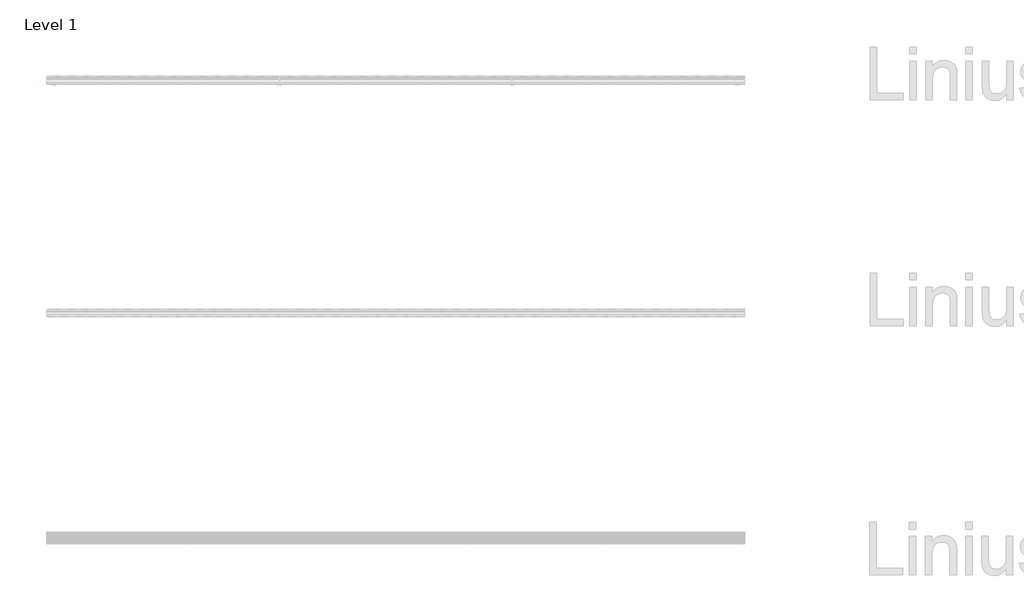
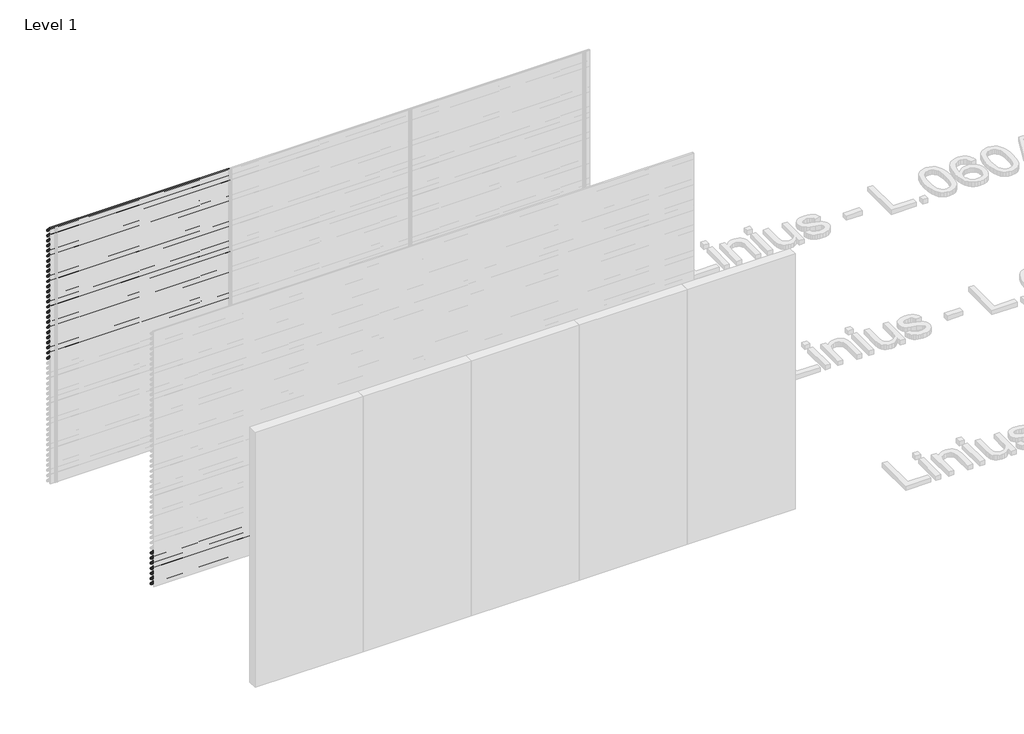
# One storey, part 143 of 153: 33 proxies.
"""IFC4 building model written with IfcOpenShell, lengths in millimetres."""

from ifc_helpers import new_model, si_unit, point, frame, frame_2d, origin, place, context, project, spatial, polyline, circle_curve, trimmed, segment, composite_curve, outline, extrude, element, save

model = new_model("IFC4")

# Units and contexts
model_context = context("Model", 3, world=origin())
ifc_project = project(units=[si_unit("LENGTHUNIT", "METRE", prefix="MILLI")], contexts=[model_context])

# Site, building, storey
site = spatial("IfcSite", under=ifc_project)
building = spatial("IfcBuilding", under=site)
storey = spatial("IfcBuildingStorey", under=building, Name="Level 1", Elevation=0.0)

# Proxies
placement = place(None, origin())
element("IfcBuildingElementProxy", 1, Name="Wall Sweeps", at=placement, inside=storey, context=model_context, shape_type="SweptSolid", body=[
    extrude(outline(composite_curve([segment(polyline([(73985.0540136, 3000.0), (73999.874191, 2998.7034025), (74049.0540136, 2945.0102749), (74049.0540136, 2933.6108187)]), True, "CONTINUOUS"), segment(trimmed(circle_curve(frame_2d((74045.7883652, 2933.897153)), 3.2781774), [point((74049.0540136, 2933.6108187))], [point((74046.4639442, 2930.6893438))], False, "CARTESIAN"), True, "CONTINUOUS"), segment(polyline([(74046.4639442, 2930.6893438), (74034.1895723, 2931.6282758), (73985.0540136, 2985.2730773), (73985.0540136, 3000.0)]), True, "CONTINUOUS")], self_intersect=False), holes=[composite_curve([segment(polyline([(73999.1621773, 2997.2599659), (73986.5540136, 2998.3630372), (73986.5540136, 2985.856213), (74034.8952036, 2933.0786805), (74046.3312542, 2932.2038762)]), True, "CONTINUOUS"), segment(trimmed(circle_curve(frame_2d((74045.7883652, 2933.897153)), 1.7781774), [point((74046.3312542, 2932.2038762))], [point((74047.5540136, 2933.6864389))], True, "CARTESIAN"), True, "CONTINUOUS"), segment(polyline([(74047.5540136, 2933.6864389), (74047.5540136, 2944.4271392), (73999.1621773, 2997.2599659)]), True, "CONTINUOUS")], self_intersect=False)]), frame((44966.6208097, 0.0, 0.0), z_axis=(1.0, 0.0, 0.0), x_axis=(0.0, 1.0, 0.0)), (0.0, 0.0, 1.0), 2000.0000001),
])
element("IfcBuildingElementProxy", 2, Name="Wall Sweeps", at=placement, inside=storey, context=model_context, shape_type="SweptSolid", body=[
    extrude(outline(composite_curve([segment(polyline([(73985.0540136, 2940.0), (73999.874191, 2938.7034025), (74049.0540136, 2885.0102749), (74049.0540136, 2873.6108187)]), True, "CONTINUOUS"), segment(trimmed(circle_curve(frame_2d((74045.7883652, 2873.897153)), 3.2781774), [point((74049.0540136, 2873.6108187))], [point((74046.4639442, 2870.6893438))], False, "CARTESIAN"), True, "CONTINUOUS"), segment(polyline([(74046.4639442, 2870.6893438), (74034.1895723, 2871.6282758), (73985.0540136, 2925.2730773), (73985.0540136, 2940.0)]), True, "CONTINUOUS")], self_intersect=False), holes=[composite_curve([segment(polyline([(73999.1621773, 2937.2599659), (73986.5540136, 2938.3630372), (73986.5540136, 2925.856213), (74034.8952036, 2873.0786805), (74046.3312542, 2872.2038762)]), True, "CONTINUOUS"), segment(trimmed(circle_curve(frame_2d((74045.7883652, 2873.897153)), 1.7781774), [point((74046.3312542, 2872.2038762))], [point((74047.5540136, 2873.6864389))], True, "CARTESIAN"), True, "CONTINUOUS"), segment(polyline([(74047.5540136, 2873.6864389), (74047.5540136, 2884.4271392), (73999.1621773, 2937.2599659)]), True, "CONTINUOUS")], self_intersect=False)]), frame((44966.6208097, 0.0, 0.0), z_axis=(1.0, 0.0, 0.0), x_axis=(0.0, 1.0, 0.0)), (0.0, 0.0, 1.0), 2000.0000001),
])
element("IfcBuildingElementProxy", 3, Name="Wall Sweeps", at=placement, inside=storey, context=model_context, shape_type="SweptSolid", body=[
    extrude(outline(composite_curve([segment(polyline([(73985.0540136, 2880.0), (73999.874191, 2878.7034025), (74049.0540136, 2825.0102749), (74049.0540136, 2813.6108187)]), True, "CONTINUOUS"), segment(trimmed(circle_curve(frame_2d((74045.7883652, 2813.897153)), 3.2781774), [point((74049.0540136, 2813.6108187))], [point((74046.4639442, 2810.6893438))], False, "CARTESIAN"), True, "CONTINUOUS"), segment(polyline([(74046.4639442, 2810.6893438), (74034.1895723, 2811.6282758), (73985.0540136, 2865.2730773), (73985.0540136, 2880.0)]), True, "CONTINUOUS")], self_intersect=False), holes=[composite_curve([segment(polyline([(73999.1621773, 2877.2599659), (73986.5540136, 2878.3630372), (73986.5540136, 2865.856213), (74034.8952036, 2813.0786805), (74046.3312542, 2812.2038762)]), True, "CONTINUOUS"), segment(trimmed(circle_curve(frame_2d((74045.7883652, 2813.897153)), 1.7781774), [point((74046.3312542, 2812.2038762))], [point((74047.5540136, 2813.6864389))], True, "CARTESIAN"), True, "CONTINUOUS"), segment(polyline([(74047.5540136, 2813.6864389), (74047.5540136, 2824.4271392), (73999.1621773, 2877.2599659)]), True, "CONTINUOUS")], self_intersect=False)]), frame((44966.6208097, 0.0, 0.0), z_axis=(1.0, 0.0, 0.0), x_axis=(0.0, 1.0, 0.0)), (0.0, 0.0, 1.0), 2000.0000001),
])
element("IfcBuildingElementProxy", 4, Name="Wall Sweeps", at=placement, inside=storey, context=model_context, shape_type="SweptSolid", body=[
    extrude(outline(composite_curve([segment(polyline([(73985.0540136, 2820.0), (73999.874191, 2818.7034025), (74049.0540136, 2765.0102749), (74049.0540136, 2753.6108187)]), True, "CONTINUOUS"), segment(trimmed(circle_curve(frame_2d((74045.7883652, 2753.897153)), 3.2781774), [point((74049.0540136, 2753.6108187))], [point((74046.4639442, 2750.6893438))], False, "CARTESIAN"), True, "CONTINUOUS"), segment(polyline([(74046.4639442, 2750.6893438), (74034.1895723, 2751.6282758), (73985.0540136, 2805.2730773), (73985.0540136, 2820.0)]), True, "CONTINUOUS")], self_intersect=False), holes=[composite_curve([segment(polyline([(73999.1621773, 2817.2599659), (73986.5540136, 2818.3630372), (73986.5540136, 2805.856213), (74034.8952036, 2753.0786805), (74046.3312542, 2752.2038762)]), True, "CONTINUOUS"), segment(trimmed(circle_curve(frame_2d((74045.7883652, 2753.897153)), 1.7781774), [point((74046.3312542, 2752.2038762))], [point((74047.5540136, 2753.6864389))], True, "CARTESIAN"), True, "CONTINUOUS"), segment(polyline([(74047.5540136, 2753.6864389), (74047.5540136, 2764.4271392), (73999.1621773, 2817.2599659)]), True, "CONTINUOUS")], self_intersect=False)]), frame((44966.6208097, 0.0, 0.0), z_axis=(1.0, 0.0, 0.0), x_axis=(0.0, 1.0, 0.0)), (0.0, 0.0, 1.0), 2000.0000001),
])
element("IfcBuildingElementProxy", 5, Name="Wall Sweeps", at=placement, inside=storey, context=model_context, shape_type="SweptSolid", body=[
    extrude(outline(composite_curve([segment(polyline([(73985.0540136, 2760.0), (73999.874191, 2758.7034025), (74049.0540136, 2705.0102749), (74049.0540136, 2693.6108187)]), True, "CONTINUOUS"), segment(trimmed(circle_curve(frame_2d((74045.7883652, 2693.897153)), 3.2781774), [point((74049.0540136, 2693.6108187))], [point((74046.4639442, 2690.6893438))], False, "CARTESIAN"), True, "CONTINUOUS"), segment(polyline([(74046.4639442, 2690.6893438), (74034.1895723, 2691.6282758), (73985.0540136, 2745.2730773), (73985.0540136, 2760.0)]), True, "CONTINUOUS")], self_intersect=False), holes=[composite_curve([segment(polyline([(73999.1621773, 2757.2599659), (73986.5540136, 2758.3630372), (73986.5540136, 2745.856213), (74034.8952036, 2693.0786805), (74046.3312542, 2692.2038762)]), True, "CONTINUOUS"), segment(trimmed(circle_curve(frame_2d((74045.7883652, 2693.897153)), 1.7781774), [point((74046.3312542, 2692.2038762))], [point((74047.5540136, 2693.6864389))], True, "CARTESIAN"), True, "CONTINUOUS"), segment(polyline([(74047.5540136, 2693.6864389), (74047.5540136, 2704.4271392), (73999.1621773, 2757.2599659)]), True, "CONTINUOUS")], self_intersect=False)]), frame((44966.6208097, 0.0, 0.0), z_axis=(1.0, 0.0, 0.0), x_axis=(0.0, 1.0, 0.0)), (0.0, 0.0, 1.0), 2000.0000001),
])
element("IfcBuildingElementProxy", 6, Name="Wall Sweeps", at=placement, inside=storey, context=model_context, shape_type="SweptSolid", body=[
    extrude(outline(composite_curve([segment(polyline([(73985.0540136, 2700.0), (73999.874191, 2698.7034025), (74049.0540136, 2645.0102749), (74049.0540136, 2633.6108187)]), True, "CONTINUOUS"), segment(trimmed(circle_curve(frame_2d((74045.7883652, 2633.897153)), 3.2781774), [point((74049.0540136, 2633.6108187))], [point((74046.4639442, 2630.6893438))], False, "CARTESIAN"), True, "CONTINUOUS"), segment(polyline([(74046.4639442, 2630.6893438), (74034.1895723, 2631.6282758), (73985.0540136, 2685.2730773), (73985.0540136, 2700.0)]), True, "CONTINUOUS")], self_intersect=False), holes=[composite_curve([segment(polyline([(73999.1621773, 2697.2599659), (73986.5540136, 2698.3630372), (73986.5540136, 2685.856213), (74034.8952036, 2633.0786805), (74046.3312542, 2632.2038762)]), True, "CONTINUOUS"), segment(trimmed(circle_curve(frame_2d((74045.7883652, 2633.897153)), 1.7781774), [point((74046.3312542, 2632.2038762))], [point((74047.5540136, 2633.6864389))], True, "CARTESIAN"), True, "CONTINUOUS"), segment(polyline([(74047.5540136, 2633.6864389), (74047.5540136, 2644.4271392), (73999.1621773, 2697.2599659)]), True, "CONTINUOUS")], self_intersect=False)]), frame((44966.6208097, 0.0, 0.0), z_axis=(1.0, 0.0, 0.0), x_axis=(0.0, 1.0, 0.0)), (0.0, 0.0, 1.0), 2000.0000001),
])
element("IfcBuildingElementProxy", 7, Name="Wall Sweeps", at=placement, inside=storey, context=model_context, shape_type="SweptSolid", body=[
    extrude(outline(composite_curve([segment(polyline([(73985.0540136, 2640.0), (73999.874191, 2638.7034025), (74049.0540136, 2585.0102749), (74049.0540136, 2573.6108187)]), True, "CONTINUOUS"), segment(trimmed(circle_curve(frame_2d((74045.7883652, 2573.897153)), 3.2781774), [point((74049.0540136, 2573.6108187))], [point((74046.4639442, 2570.6893438))], False, "CARTESIAN"), True, "CONTINUOUS"), segment(polyline([(74046.4639442, 2570.6893438), (74034.1895723, 2571.6282758), (73985.0540136, 2625.2730773), (73985.0540136, 2640.0)]), True, "CONTINUOUS")], self_intersect=False), holes=[composite_curve([segment(polyline([(73999.1621773, 2637.2599659), (73986.5540136, 2638.3630372), (73986.5540136, 2625.856213), (74034.8952036, 2573.0786805), (74046.3312542, 2572.2038762)]), True, "CONTINUOUS"), segment(trimmed(circle_curve(frame_2d((74045.7883652, 2573.897153)), 1.7781774), [point((74046.3312542, 2572.2038762))], [point((74047.5540136, 2573.6864389))], True, "CARTESIAN"), True, "CONTINUOUS"), segment(polyline([(74047.5540136, 2573.6864389), (74047.5540136, 2584.4271392), (73999.1621773, 2637.2599659)]), True, "CONTINUOUS")], self_intersect=False)]), frame((44966.6208097, 0.0, 0.0), z_axis=(1.0, 0.0, 0.0), x_axis=(0.0, 1.0, 0.0)), (0.0, 0.0, 1.0), 2000.0000001),
])
element("IfcBuildingElementProxy", 8, Name="Wall Sweeps", at=placement, inside=storey, context=model_context, shape_type="SweptSolid", body=[
    extrude(outline(composite_curve([segment(polyline([(73985.0540136, 2580.0), (73999.874191, 2578.7034025), (74049.0540136, 2525.0102749), (74049.0540136, 2513.6108187)]), True, "CONTINUOUS"), segment(trimmed(circle_curve(frame_2d((74045.7883652, 2513.897153)), 3.2781774), [point((74049.0540136, 2513.6108187))], [point((74046.4639442, 2510.6893438))], False, "CARTESIAN"), True, "CONTINUOUS"), segment(polyline([(74046.4639442, 2510.6893438), (74034.1895723, 2511.6282758), (73985.0540136, 2565.2730773), (73985.0540136, 2580.0)]), True, "CONTINUOUS")], self_intersect=False), holes=[composite_curve([segment(polyline([(73999.1621773, 2577.2599659), (73986.5540136, 2578.3630372), (73986.5540136, 2565.856213), (74034.8952036, 2513.0786805), (74046.3312542, 2512.2038762)]), True, "CONTINUOUS"), segment(trimmed(circle_curve(frame_2d((74045.7883652, 2513.897153)), 1.7781774), [point((74046.3312542, 2512.2038762))], [point((74047.5540136, 2513.6864389))], True, "CARTESIAN"), True, "CONTINUOUS"), segment(polyline([(74047.5540136, 2513.6864389), (74047.5540136, 2524.4271392), (73999.1621773, 2577.2599659)]), True, "CONTINUOUS")], self_intersect=False)]), frame((44966.6208097, 0.0, 0.0), z_axis=(1.0, 0.0, 0.0), x_axis=(0.0, 1.0, 0.0)), (0.0, 0.0, 1.0), 2000.0000001),
])
element("IfcBuildingElementProxy", 9, Name="Wall Sweeps", at=placement, inside=storey, context=model_context, shape_type="SweptSolid", body=[
    extrude(outline(composite_curve([segment(polyline([(73985.0540136, 2520.0), (73999.874191, 2518.7034025), (74049.0540136, 2465.0102749), (74049.0540136, 2453.6108187)]), True, "CONTINUOUS"), segment(trimmed(circle_curve(frame_2d((74045.7883652, 2453.897153)), 3.2781774), [point((74049.0540136, 2453.6108187))], [point((74046.4639442, 2450.6893438))], False, "CARTESIAN"), True, "CONTINUOUS"), segment(polyline([(74046.4639442, 2450.6893438), (74034.1895723, 2451.6282758), (73985.0540136, 2505.2730773), (73985.0540136, 2520.0)]), True, "CONTINUOUS")], self_intersect=False), holes=[composite_curve([segment(polyline([(73999.1621773, 2517.2599659), (73986.5540136, 2518.3630372), (73986.5540136, 2505.856213), (74034.8952036, 2453.0786805), (74046.3312542, 2452.2038762)]), True, "CONTINUOUS"), segment(trimmed(circle_curve(frame_2d((74045.7883652, 2453.897153)), 1.7781774), [point((74046.3312542, 2452.2038762))], [point((74047.5540136, 2453.6864389))], True, "CARTESIAN"), True, "CONTINUOUS"), segment(polyline([(74047.5540136, 2453.6864389), (74047.5540136, 2464.4271392), (73999.1621773, 2517.2599659)]), True, "CONTINUOUS")], self_intersect=False)]), frame((44966.6208097, 0.0, 0.0), z_axis=(1.0, 0.0, 0.0), x_axis=(0.0, 1.0, 0.0)), (0.0, 0.0, 1.0), 2000.0000001),
])
element("IfcBuildingElementProxy", 10, Name="Wall Sweeps", at=placement, inside=storey, context=model_context, shape_type="SweptSolid", body=[
    extrude(outline(composite_curve([segment(polyline([(73985.0540136, 2460.0), (73999.874191, 2458.7034025), (74049.0540136, 2405.0102749), (74049.0540136, 2393.6108187)]), True, "CONTINUOUS"), segment(trimmed(circle_curve(frame_2d((74045.7883652, 2393.897153)), 3.2781774), [point((74049.0540136, 2393.6108187))], [point((74046.4639442, 2390.6893438))], False, "CARTESIAN"), True, "CONTINUOUS"), segment(polyline([(74046.4639442, 2390.6893438), (74034.1895723, 2391.6282758), (73985.0540136, 2445.2730773), (73985.0540136, 2460.0)]), True, "CONTINUOUS")], self_intersect=False), holes=[composite_curve([segment(polyline([(73999.1621773, 2457.2599659), (73986.5540136, 2458.3630372), (73986.5540136, 2445.856213), (74034.8952036, 2393.0786805), (74046.3312542, 2392.2038762)]), True, "CONTINUOUS"), segment(trimmed(circle_curve(frame_2d((74045.7883652, 2393.897153)), 1.7781774), [point((74046.3312542, 2392.2038762))], [point((74047.5540136, 2393.6864389))], True, "CARTESIAN"), True, "CONTINUOUS"), segment(polyline([(74047.5540136, 2393.6864389), (74047.5540136, 2404.4271392), (73999.1621773, 2457.2599659)]), True, "CONTINUOUS")], self_intersect=False)]), frame((44966.6208097, 0.0, 0.0), z_axis=(1.0, 0.0, 0.0), x_axis=(0.0, 1.0, 0.0)), (0.0, 0.0, 1.0), 2000.0000001),
])
element("IfcBuildingElementProxy", 11, Name="Wall Sweeps", at=placement, inside=storey, context=model_context, shape_type="SweptSolid", body=[
    extrude(outline(composite_curve([segment(polyline([(73985.0540136, 2400.0), (73999.874191, 2398.7034025), (74049.0540136, 2345.0102749), (74049.0540136, 2333.6108187)]), True, "CONTINUOUS"), segment(trimmed(circle_curve(frame_2d((74045.7883652, 2333.897153)), 3.2781774), [point((74049.0540136, 2333.6108187))], [point((74046.4639442, 2330.6893438))], False, "CARTESIAN"), True, "CONTINUOUS"), segment(polyline([(74046.4639442, 2330.6893438), (74034.1895723, 2331.6282758), (73985.0540136, 2385.2730773), (73985.0540136, 2400.0)]), True, "CONTINUOUS")], self_intersect=False), holes=[composite_curve([segment(polyline([(73999.1621773, 2397.2599659), (73986.5540136, 2398.3630372), (73986.5540136, 2385.856213), (74034.8952036, 2333.0786805), (74046.3312542, 2332.2038762)]), True, "CONTINUOUS"), segment(trimmed(circle_curve(frame_2d((74045.7883652, 2333.897153)), 1.7781774), [point((74046.3312542, 2332.2038762))], [point((74047.5540136, 2333.6864389))], True, "CARTESIAN"), True, "CONTINUOUS"), segment(polyline([(74047.5540136, 2333.6864389), (74047.5540136, 2344.4271392), (73999.1621773, 2397.2599659)]), True, "CONTINUOUS")], self_intersect=False)]), frame((44966.6208097, 0.0, 0.0), z_axis=(1.0, 0.0, 0.0), x_axis=(0.0, 1.0, 0.0)), (0.0, 0.0, 1.0), 2000.0000001),
])
element("IfcBuildingElementProxy", 12, Name="Wall Sweeps", at=placement, inside=storey, context=model_context, shape_type="SweptSolid", body=[
    extrude(outline(composite_curve([segment(polyline([(73985.0540136, 2340.0), (73999.874191, 2338.7034025), (74049.0540136, 2285.0102749), (74049.0540136, 2273.6108187)]), True, "CONTINUOUS"), segment(trimmed(circle_curve(frame_2d((74045.7883652, 2273.897153)), 3.2781774), [point((74049.0540136, 2273.6108187))], [point((74046.4639442, 2270.6893438))], False, "CARTESIAN"), True, "CONTINUOUS"), segment(polyline([(74046.4639442, 2270.6893438), (74034.1895723, 2271.6282758), (73985.0540136, 2325.2730773), (73985.0540136, 2340.0)]), True, "CONTINUOUS")], self_intersect=False), holes=[composite_curve([segment(polyline([(73999.1621773, 2337.2599659), (73986.5540136, 2338.3630372), (73986.5540136, 2325.856213), (74034.8952036, 2273.0786805), (74046.3312542, 2272.2038762)]), True, "CONTINUOUS"), segment(trimmed(circle_curve(frame_2d((74045.7883652, 2273.897153)), 1.7781774), [point((74046.3312542, 2272.2038762))], [point((74047.5540136, 2273.6864389))], True, "CARTESIAN"), True, "CONTINUOUS"), segment(polyline([(74047.5540136, 2273.6864389), (74047.5540136, 2284.4271392), (73999.1621773, 2337.2599659)]), True, "CONTINUOUS")], self_intersect=False)]), frame((44966.6208097, 0.0, 0.0), z_axis=(1.0, 0.0, 0.0), x_axis=(0.0, 1.0, 0.0)), (0.0, 0.0, 1.0), 2000.0000001),
])
element("IfcBuildingElementProxy", 13, Name="Wall Sweeps", at=placement, inside=storey, context=model_context, shape_type="SweptSolid", body=[
    extrude(outline(composite_curve([segment(polyline([(73985.0540136, 2280.0), (73999.874191, 2278.7034025), (74049.0540136, 2225.0102749), (74049.0540136, 2213.6108187)]), True, "CONTINUOUS"), segment(trimmed(circle_curve(frame_2d((74045.7883652, 2213.897153)), 3.2781774), [point((74049.0540136, 2213.6108187))], [point((74046.4639442, 2210.6893438))], False, "CARTESIAN"), True, "CONTINUOUS"), segment(polyline([(74046.4639442, 2210.6893438), (74034.1895723, 2211.6282758), (73985.0540136, 2265.2730773), (73985.0540136, 2280.0)]), True, "CONTINUOUS")], self_intersect=False), holes=[composite_curve([segment(polyline([(73999.1621773, 2277.2599659), (73986.5540136, 2278.3630372), (73986.5540136, 2265.856213), (74034.8952036, 2213.0786805), (74046.3312542, 2212.2038762)]), True, "CONTINUOUS"), segment(trimmed(circle_curve(frame_2d((74045.7883652, 2213.897153)), 1.7781774), [point((74046.3312542, 2212.2038762))], [point((74047.5540136, 2213.6864389))], True, "CARTESIAN"), True, "CONTINUOUS"), segment(polyline([(74047.5540136, 2213.6864389), (74047.5540136, 2224.4271392), (73999.1621773, 2277.2599659)]), True, "CONTINUOUS")], self_intersect=False)]), frame((44966.6208097, 0.0, 0.0), z_axis=(1.0, 0.0, 0.0), x_axis=(0.0, 1.0, 0.0)), (0.0, 0.0, 1.0), 2000.0000001),
])
element("IfcBuildingElementProxy", 14, Name="Wall Sweeps", at=placement, inside=storey, context=model_context, shape_type="SweptSolid", body=[
    extrude(outline(composite_curve([segment(polyline([(73985.0540136, 2220.0), (73999.874191, 2218.7034025), (74049.0540136, 2165.0102749), (74049.0540136, 2153.6108187)]), True, "CONTINUOUS"), segment(trimmed(circle_curve(frame_2d((74045.7883652, 2153.897153)), 3.2781774), [point((74049.0540136, 2153.6108187))], [point((74046.4639442, 2150.6893438))], False, "CARTESIAN"), True, "CONTINUOUS"), segment(polyline([(74046.4639442, 2150.6893438), (74034.1895723, 2151.6282758), (73985.0540136, 2205.2730773), (73985.0540136, 2220.0)]), True, "CONTINUOUS")], self_intersect=False), holes=[composite_curve([segment(polyline([(73999.1621773, 2217.2599659), (73986.5540136, 2218.3630372), (73986.5540136, 2205.856213), (74034.8952036, 2153.0786805), (74046.3312542, 2152.2038762)]), True, "CONTINUOUS"), segment(trimmed(circle_curve(frame_2d((74045.7883652, 2153.897153)), 1.7781774), [point((74046.3312542, 2152.2038762))], [point((74047.5540136, 2153.6864389))], True, "CARTESIAN"), True, "CONTINUOUS"), segment(polyline([(74047.5540136, 2153.6864389), (74047.5540136, 2164.4271392), (73999.1621773, 2217.2599659)]), True, "CONTINUOUS")], self_intersect=False)]), frame((44966.6208097, 0.0, 0.0), z_axis=(1.0, 0.0, 0.0), x_axis=(0.0, 1.0, 0.0)), (0.0, 0.0, 1.0), 2000.0000001),
])
element("IfcBuildingElementProxy", 15, Name="Wall Sweeps", at=placement, inside=storey, context=model_context, shape_type="SweptSolid", body=[
    extrude(outline(composite_curve([segment(polyline([(73985.0540136, 2160.0), (73999.874191, 2158.7034025), (74049.0540136, 2105.0102749), (74049.0540136, 2093.6108187)]), True, "CONTINUOUS"), segment(trimmed(circle_curve(frame_2d((74045.7883652, 2093.897153)), 3.2781774), [point((74049.0540136, 2093.6108187))], [point((74046.4639442, 2090.6893438))], False, "CARTESIAN"), True, "CONTINUOUS"), segment(polyline([(74046.4639442, 2090.6893438), (74034.1895723, 2091.6282758), (73985.0540136, 2145.2730773), (73985.0540136, 2160.0)]), True, "CONTINUOUS")], self_intersect=False), holes=[composite_curve([segment(polyline([(73999.1621773, 2157.2599659), (73986.5540136, 2158.3630372), (73986.5540136, 2145.856213), (74034.8952036, 2093.0786805), (74046.3312542, 2092.2038762)]), True, "CONTINUOUS"), segment(trimmed(circle_curve(frame_2d((74045.7883652, 2093.897153)), 1.7781774), [point((74046.3312542, 2092.2038762))], [point((74047.5540136, 2093.6864389))], True, "CARTESIAN"), True, "CONTINUOUS"), segment(polyline([(74047.5540136, 2093.6864389), (74047.5540136, 2104.4271392), (73999.1621773, 2157.2599659)]), True, "CONTINUOUS")], self_intersect=False)]), frame((44966.6208097, 0.0, 0.0), z_axis=(1.0, 0.0, 0.0), x_axis=(0.0, 1.0, 0.0)), (0.0, 0.0, 1.0), 2000.0000001),
])
element("IfcBuildingElementProxy", 16, Name="Wall Sweeps", at=placement, inside=storey, context=model_context, shape_type="SweptSolid", body=[
    extrude(outline(composite_curve([segment(polyline([(73985.0540136, 2100.0), (73999.874191, 2098.7034025), (74049.0540136, 2045.0102749), (74049.0540136, 2033.6108187)]), True, "CONTINUOUS"), segment(trimmed(circle_curve(frame_2d((74045.7883652, 2033.897153)), 3.2781774), [point((74049.0540136, 2033.6108187))], [point((74046.4639442, 2030.6893438))], False, "CARTESIAN"), True, "CONTINUOUS"), segment(polyline([(74046.4639442, 2030.6893438), (74034.1895723, 2031.6282758), (73985.0540136, 2085.2730773), (73985.0540136, 2100.0)]), True, "CONTINUOUS")], self_intersect=False), holes=[composite_curve([segment(polyline([(73999.1621773, 2097.2599659), (73986.5540136, 2098.3630372), (73986.5540136, 2085.856213), (74034.8952036, 2033.0786805), (74046.3312542, 2032.2038762)]), True, "CONTINUOUS"), segment(trimmed(circle_curve(frame_2d((74045.7883652, 2033.897153)), 1.7781774), [point((74046.3312542, 2032.2038762))], [point((74047.5540136, 2033.6864389))], True, "CARTESIAN"), True, "CONTINUOUS"), segment(polyline([(74047.5540136, 2033.6864389), (74047.5540136, 2044.4271392), (73999.1621773, 2097.2599659)]), True, "CONTINUOUS")], self_intersect=False)]), frame((44966.6208097, 0.0, 0.0), z_axis=(1.0, 0.0, 0.0), x_axis=(0.0, 1.0, 0.0)), (0.0, 0.0, 1.0), 2000.0000001),
])
element("IfcBuildingElementProxy", 17, Name="Wall Sweeps", at=placement, inside=storey, context=model_context, shape_type="SweptSolid", body=[
    extrude(outline(composite_curve([segment(polyline([(73985.0540136, 2040.0), (73999.874191, 2038.7034025), (74049.0540136, 1985.0102749), (74049.0540136, 1973.6108187)]), True, "CONTINUOUS"), segment(trimmed(circle_curve(frame_2d((74045.7883652, 1973.897153)), 3.2781774), [point((74049.0540136, 1973.6108187))], [point((74046.4639442, 1970.6893438))], False, "CARTESIAN"), True, "CONTINUOUS"), segment(polyline([(74046.4639442, 1970.6893438), (74034.1895723, 1971.6282758), (73985.0540136, 2025.2730773), (73985.0540136, 2040.0)]), True, "CONTINUOUS")], self_intersect=False), holes=[composite_curve([segment(polyline([(73999.1621773, 2037.2599659), (73986.5540136, 2038.3630372), (73986.5540136, 2025.856213), (74034.8952036, 1973.0786805), (74046.3312542, 1972.2038762)]), True, "CONTINUOUS"), segment(trimmed(circle_curve(frame_2d((74045.7883652, 1973.897153)), 1.7781774), [point((74046.3312542, 1972.2038762))], [point((74047.5540136, 1973.6864389))], True, "CARTESIAN"), True, "CONTINUOUS"), segment(polyline([(74047.5540136, 1973.6864389), (74047.5540136, 1984.4271392), (73999.1621773, 2037.2599659)]), True, "CONTINUOUS")], self_intersect=False)]), frame((44966.6208097, 0.0, 0.0), z_axis=(1.0, 0.0, 0.0), x_axis=(0.0, 1.0, 0.0)), (0.0, 0.0, 1.0), 2000.0000001),
])
element("IfcBuildingElementProxy", 18, Name="Wall Sweeps", at=placement, inside=storey, context=model_context, shape_type="SweptSolid", body=[
    extrude(outline(composite_curve([segment(polyline([(73985.0540136, 1980.0), (73999.874191, 1978.7034025), (74049.0540136, 1925.0102749), (74049.0540136, 1913.6108187)]), True, "CONTINUOUS"), segment(trimmed(circle_curve(frame_2d((74045.7883652, 1913.897153)), 3.2781774), [point((74049.0540136, 1913.6108187))], [point((74046.4639442, 1910.6893438))], False, "CARTESIAN"), True, "CONTINUOUS"), segment(polyline([(74046.4639442, 1910.6893438), (74034.1895723, 1911.6282758), (73985.0540136, 1965.2730773), (73985.0540136, 1980.0)]), True, "CONTINUOUS")], self_intersect=False), holes=[composite_curve([segment(polyline([(73999.1621773, 1977.2599659), (73986.5540136, 1978.3630372), (73986.5540136, 1965.856213), (74034.8952036, 1913.0786805), (74046.3312542, 1912.2038762)]), True, "CONTINUOUS"), segment(trimmed(circle_curve(frame_2d((74045.7883652, 1913.897153)), 1.7781774), [point((74046.3312542, 1912.2038762))], [point((74047.5540136, 1913.6864389))], True, "CARTESIAN"), True, "CONTINUOUS"), segment(polyline([(74047.5540136, 1913.6864389), (74047.5540136, 1924.4271392), (73999.1621773, 1977.2599659)]), True, "CONTINUOUS")], self_intersect=False)]), frame((44966.6208097, 0.0, 0.0), z_axis=(1.0, 0.0, 0.0), x_axis=(0.0, 1.0, 0.0)), (0.0, 0.0, 1.0), 2000.0000001),
])
element("IfcBuildingElementProxy", 19, Name="Wall Sweeps", at=placement, inside=storey, context=model_context, shape_type="SweptSolid", body=[
    extrude(outline(composite_curve([segment(polyline([(73985.0540136, 1920.0), (73999.874191, 1918.7034025), (74049.0540136, 1865.0102749), (74049.0540136, 1853.6108187)]), True, "CONTINUOUS"), segment(trimmed(circle_curve(frame_2d((74045.7883652, 1853.897153)), 3.2781774), [point((74049.0540136, 1853.6108187))], [point((74046.4639442, 1850.6893438))], False, "CARTESIAN"), True, "CONTINUOUS"), segment(polyline([(74046.4639442, 1850.6893438), (74034.1895723, 1851.6282758), (73985.0540136, 1905.2730773), (73985.0540136, 1920.0)]), True, "CONTINUOUS")], self_intersect=False), holes=[composite_curve([segment(polyline([(73999.1621773, 1917.2599659), (73986.5540136, 1918.3630372), (73986.5540136, 1905.856213), (74034.8952036, 1853.0786805), (74046.3312542, 1852.2038762)]), True, "CONTINUOUS"), segment(trimmed(circle_curve(frame_2d((74045.7883652, 1853.897153)), 1.7781774), [point((74046.3312542, 1852.2038762))], [point((74047.5540136, 1853.6864389))], True, "CARTESIAN"), True, "CONTINUOUS"), segment(polyline([(74047.5540136, 1853.6864389), (74047.5540136, 1864.4271392), (73999.1621773, 1917.2599659)]), True, "CONTINUOUS")], self_intersect=False)]), frame((44966.6208097, 0.0, 0.0), z_axis=(1.0, 0.0, 0.0), x_axis=(0.0, 1.0, 0.0)), (0.0, 0.0, 1.0), 2000.0000001),
])
element("IfcBuildingElementProxy", 20, Name="Wall Sweeps", at=placement, inside=storey, context=model_context, shape_type="SweptSolid", body=[
    extrude(outline(composite_curve([segment(polyline([(73985.0540136, 1860.0), (73999.874191, 1858.7034025), (74049.0540136, 1805.0102749), (74049.0540136, 1793.6108187)]), True, "CONTINUOUS"), segment(trimmed(circle_curve(frame_2d((74045.7883652, 1793.897153)), 3.2781774), [point((74049.0540136, 1793.6108187))], [point((74046.4639442, 1790.6893438))], False, "CARTESIAN"), True, "CONTINUOUS"), segment(polyline([(74046.4639442, 1790.6893438), (74034.1895723, 1791.6282758), (73985.0540136, 1845.2730773), (73985.0540136, 1860.0)]), True, "CONTINUOUS")], self_intersect=False), holes=[composite_curve([segment(polyline([(73999.1621773, 1857.2599659), (73986.5540136, 1858.3630372), (73986.5540136, 1845.856213), (74034.8952036, 1793.0786805), (74046.3312542, 1792.2038762)]), True, "CONTINUOUS"), segment(trimmed(circle_curve(frame_2d((74045.7883652, 1793.897153)), 1.7781774), [point((74046.3312542, 1792.2038762))], [point((74047.5540136, 1793.6864389))], True, "CARTESIAN"), True, "CONTINUOUS"), segment(polyline([(74047.5540136, 1793.6864389), (74047.5540136, 1804.4271392), (73999.1621773, 1857.2599659)]), True, "CONTINUOUS")], self_intersect=False)]), frame((44966.6208097, 0.0, 0.0), z_axis=(1.0, 0.0, 0.0), x_axis=(0.0, 1.0, 0.0)), (0.0, 0.0, 1.0), 2000.0000001),
])
element("IfcBuildingElementProxy", 21, Name="Wall Sweeps", at=placement, inside=storey, context=model_context, shape_type="SweptSolid", body=[
    extrude(outline(composite_curve([segment(polyline([(73985.0540136, 1800.0), (73999.874191, 1798.7034025), (74049.0540136, 1745.0102749), (74049.0540136, 1733.6108187)]), True, "CONTINUOUS"), segment(trimmed(circle_curve(frame_2d((74045.7883652, 1733.897153)), 3.2781774), [point((74049.0540136, 1733.6108187))], [point((74046.4639442, 1730.6893438))], False, "CARTESIAN"), True, "CONTINUOUS"), segment(polyline([(74046.4639442, 1730.6893438), (74034.1895723, 1731.6282758), (73985.0540136, 1785.2730773), (73985.0540136, 1800.0)]), True, "CONTINUOUS")], self_intersect=False), holes=[composite_curve([segment(polyline([(73999.1621773, 1797.2599659), (73986.5540136, 1798.3630372), (73986.5540136, 1785.856213), (74034.8952036, 1733.0786805), (74046.3312542, 1732.2038762)]), True, "CONTINUOUS"), segment(trimmed(circle_curve(frame_2d((74045.7883652, 1733.897153)), 1.7781774), [point((74046.3312542, 1732.2038762))], [point((74047.5540136, 1733.6864389))], True, "CARTESIAN"), True, "CONTINUOUS"), segment(polyline([(74047.5540136, 1733.6864389), (74047.5540136, 1744.4271392), (73999.1621773, 1797.2599659)]), True, "CONTINUOUS")], self_intersect=False)]), frame((44966.6208097, 0.0, 0.0), z_axis=(1.0, 0.0, 0.0), x_axis=(0.0, 1.0, 0.0)), (0.0, 0.0, 1.0), 2000.0000001),
])
element("IfcBuildingElementProxy", 22, Name="Wall Sweeps", at=placement, inside=storey, context=model_context, shape_type="SweptSolid", body=[
    extrude(outline(composite_curve([segment(polyline([(73985.0540136, 1740.0), (73999.874191, 1738.7034025), (74049.0540136, 1685.0102749), (74049.0540136, 1673.6108187)]), True, "CONTINUOUS"), segment(trimmed(circle_curve(frame_2d((74045.7883652, 1673.897153)), 3.2781774), [point((74049.0540136, 1673.6108187))], [point((74046.4639442, 1670.6893438))], False, "CARTESIAN"), True, "CONTINUOUS"), segment(polyline([(74046.4639442, 1670.6893438), (74034.1895723, 1671.6282758), (73985.0540136, 1725.2730773), (73985.0540136, 1740.0)]), True, "CONTINUOUS")], self_intersect=False), holes=[composite_curve([segment(polyline([(73999.1621773, 1737.2599659), (73986.5540136, 1738.3630372), (73986.5540136, 1725.856213), (74034.8952036, 1673.0786805), (74046.3312542, 1672.2038762)]), True, "CONTINUOUS"), segment(trimmed(circle_curve(frame_2d((74045.7883652, 1673.897153)), 1.7781774), [point((74046.3312542, 1672.2038762))], [point((74047.5540136, 1673.6864389))], True, "CARTESIAN"), True, "CONTINUOUS"), segment(polyline([(74047.5540136, 1673.6864389), (74047.5540136, 1684.4271392), (73999.1621773, 1737.2599659)]), True, "CONTINUOUS")], self_intersect=False)]), frame((44966.6208097, 0.0, 0.0), z_axis=(1.0, 0.0, 0.0), x_axis=(0.0, 1.0, 0.0)), (0.0, 0.0, 1.0), 2000.0000001),
])
element("IfcBuildingElementProxy", 23, Name="Wall Sweeps", at=placement, inside=storey, context=model_context, shape_type="SweptSolid", body=[
    extrude(outline(composite_curve([segment(polyline([(73985.0540136, 1680.0), (73999.874191, 1678.7034025), (74049.0540136, 1625.0102749), (74049.0540136, 1613.6108187)]), True, "CONTINUOUS"), segment(trimmed(circle_curve(frame_2d((74045.7883652, 1613.897153)), 3.2781774), [point((74049.0540136, 1613.6108187))], [point((74046.4639442, 1610.6893438))], False, "CARTESIAN"), True, "CONTINUOUS"), segment(polyline([(74046.4639442, 1610.6893438), (74034.1895723, 1611.6282758), (73985.0540136, 1665.2730773), (73985.0540136, 1680.0)]), True, "CONTINUOUS")], self_intersect=False), holes=[composite_curve([segment(polyline([(73999.1621773, 1677.2599659), (73986.5540136, 1678.3630372), (73986.5540136, 1665.856213), (74034.8952036, 1613.0786805), (74046.3312542, 1612.2038762)]), True, "CONTINUOUS"), segment(trimmed(circle_curve(frame_2d((74045.7883652, 1613.897153)), 1.7781774), [point((74046.3312542, 1612.2038762))], [point((74047.5540136, 1613.6864389))], True, "CARTESIAN"), True, "CONTINUOUS"), segment(polyline([(74047.5540136, 1613.6864389), (74047.5540136, 1624.4271392), (73999.1621773, 1677.2599659)]), True, "CONTINUOUS")], self_intersect=False)]), frame((44966.6208097, 0.0, 0.0), z_axis=(1.0, 0.0, 0.0), x_axis=(0.0, 1.0, 0.0)), (0.0, 0.0, 1.0), 2000.0000001),
])
element("IfcBuildingElementProxy", 24, Name="Wall Sweeps", at=placement, inside=storey, context=model_context, shape_type="SweptSolid", body=[
    extrude(outline(composite_curve([segment(polyline([(73985.0540136, 1620.0), (73999.874191, 1618.7034025), (74049.0540136, 1565.0102749), (74049.0540136, 1553.6108187)]), True, "CONTINUOUS"), segment(trimmed(circle_curve(frame_2d((74045.7883652, 1553.897153)), 3.2781774), [point((74049.0540136, 1553.6108187))], [point((74046.4639442, 1550.6893438))], False, "CARTESIAN"), True, "CONTINUOUS"), segment(polyline([(74046.4639442, 1550.6893438), (74034.1895723, 1551.6282758), (73985.0540136, 1605.2730773), (73985.0540136, 1620.0)]), True, "CONTINUOUS")], self_intersect=False), holes=[composite_curve([segment(polyline([(73999.1621773, 1617.2599659), (73986.5540136, 1618.3630372), (73986.5540136, 1605.856213), (74034.8952036, 1553.0786805), (74046.3312542, 1552.2038762)]), True, "CONTINUOUS"), segment(trimmed(circle_curve(frame_2d((74045.7883652, 1553.897153)), 1.7781774), [point((74046.3312542, 1552.2038762))], [point((74047.5540136, 1553.6864389))], True, "CARTESIAN"), True, "CONTINUOUS"), segment(polyline([(74047.5540136, 1553.6864389), (74047.5540136, 1564.4271392), (73999.1621773, 1617.2599659)]), True, "CONTINUOUS")], self_intersect=False)]), frame((44966.6208097, 0.0, 0.0), z_axis=(1.0, 0.0, 0.0), x_axis=(0.0, 1.0, 0.0)), (0.0, 0.0, 1.0), 2000.0000001),
])
element("IfcBuildingElementProxy", 25, Name="Wall Sweeps", at=placement, inside=storey, context=model_context, shape_type="SweptSolid", body=[
    extrude(outline(composite_curve([segment(polyline([(73985.0540136, 1560.0), (73999.874191, 1558.7034025), (74049.0540136, 1505.0102749), (74049.0540136, 1493.6108187)]), True, "CONTINUOUS"), segment(trimmed(circle_curve(frame_2d((74045.7883652, 1493.897153)), 3.2781774), [point((74049.0540136, 1493.6108187))], [point((74046.4639442, 1490.6893438))], False, "CARTESIAN"), True, "CONTINUOUS"), segment(polyline([(74046.4639442, 1490.6893438), (74034.1895723, 1491.6282758), (73985.0540136, 1545.2730773), (73985.0540136, 1560.0)]), True, "CONTINUOUS")], self_intersect=False), holes=[composite_curve([segment(polyline([(73999.1621773, 1557.2599659), (73986.5540136, 1558.3630372), (73986.5540136, 1545.856213), (74034.8952036, 1493.0786805), (74046.3312542, 1492.2038762)]), True, "CONTINUOUS"), segment(trimmed(circle_curve(frame_2d((74045.7883652, 1493.897153)), 1.7781774), [point((74046.3312542, 1492.2038762))], [point((74047.5540136, 1493.6864389))], True, "CARTESIAN"), True, "CONTINUOUS"), segment(polyline([(74047.5540136, 1493.6864389), (74047.5540136, 1504.4271392), (73999.1621773, 1557.2599659)]), True, "CONTINUOUS")], self_intersect=False)]), frame((44966.6208097, 0.0, 0.0), z_axis=(1.0, 0.0, 0.0), x_axis=(0.0, 1.0, 0.0)), (0.0, 0.0, 1.0), 2000.0000001),
])
element("IfcBuildingElementProxy", 26, Name="Wall Sweeps", at=placement, inside=storey, context=model_context, shape_type="SweptSolid", body=[
    extrude(outline(composite_curve([segment(polyline([(73985.0540136, 1500.0), (73999.874191, 1498.7034025), (74049.0540136, 1445.0102749), (74049.0540136, 1433.6108187)]), True, "CONTINUOUS"), segment(trimmed(circle_curve(frame_2d((74045.7883652, 1433.897153)), 3.2781774), [point((74049.0540136, 1433.6108187))], [point((74046.4639442, 1430.6893438))], False, "CARTESIAN"), True, "CONTINUOUS"), segment(polyline([(74046.4639442, 1430.6893438), (74034.1895723, 1431.6282758), (73985.0540136, 1485.2730773), (73985.0540136, 1500.0)]), True, "CONTINUOUS")], self_intersect=False), holes=[composite_curve([segment(polyline([(73999.1621773, 1497.2599659), (73986.5540136, 1498.3630372), (73986.5540136, 1485.856213), (74034.8952036, 1433.0786805), (74046.3312542, 1432.2038762)]), True, "CONTINUOUS"), segment(trimmed(circle_curve(frame_2d((74045.7883652, 1433.897153)), 1.7781774), [point((74046.3312542, 1432.2038762))], [point((74047.5540136, 1433.6864389))], True, "CARTESIAN"), True, "CONTINUOUS"), segment(polyline([(74047.5540136, 1433.6864389), (74047.5540136, 1444.4271392), (73999.1621773, 1497.2599659)]), True, "CONTINUOUS")], self_intersect=False)]), frame((44966.6208097, 0.0, 0.0), z_axis=(1.0, 0.0, 0.0), x_axis=(0.0, 1.0, 0.0)), (0.0, 0.0, 1.0), 2000.0000001),
])
element("IfcBuildingElementProxy", 27, Name="Wall Sweeps", at=placement, inside=storey, context=model_context, shape_type="SweptSolid", body=[
    extrude(outline(composite_curve([segment(polyline([(71985.0540136, 420.0), (71999.874191, 418.7034025), (72049.0540136, 365.0102749), (72049.0540136, 353.6108187)]), True, "CONTINUOUS"), segment(trimmed(circle_curve(frame_2d((72045.7883652, 353.897153)), 3.2781774), [point((72049.0540136, 353.6108187))], [point((72046.4639442, 350.6893438))], False, "CARTESIAN"), True, "CONTINUOUS"), segment(polyline([(72046.4639442, 350.6893438), (72034.1895723, 351.6282758), (71985.0540136, 405.2730773), (71985.0540136, 420.0)]), True, "CONTINUOUS")], self_intersect=False), holes=[composite_curve([segment(polyline([(71999.1621773, 417.2599659), (71986.5540136, 418.3630372), (71986.5540136, 405.856213), (72034.8952036, 353.0786805), (72046.3312542, 352.2038762)]), True, "CONTINUOUS"), segment(trimmed(circle_curve(frame_2d((72045.7883652, 353.897153)), 1.7781774), [point((72046.3312542, 352.2038762))], [point((72047.5540136, 353.6864389))], True, "CARTESIAN"), True, "CONTINUOUS"), segment(polyline([(72047.5540136, 353.6864389), (72047.5540136, 364.4271392), (71999.1621773, 417.2599659)]), True, "CONTINUOUS")], self_intersect=False)]), frame((44966.6208097, 0.0, 0.0), z_axis=(1.0, 0.0, 0.0), x_axis=(0.0, 1.0, 0.0)), (0.0, 0.0, 1.0), 6000.0),
])
element("IfcBuildingElementProxy", 28, Name="Wall Sweeps", at=placement, inside=storey, context=model_context, shape_type="SweptSolid", body=[
    extrude(outline(composite_curve([segment(polyline([(71985.0540136, 360.0), (71999.874191, 358.7034025), (72049.0540136, 305.0102749), (72049.0540136, 293.6108187)]), True, "CONTINUOUS"), segment(trimmed(circle_curve(frame_2d((72045.7883652, 293.897153)), 3.2781774), [point((72049.0540136, 293.6108187))], [point((72046.4639442, 290.6893438))], False, "CARTESIAN"), True, "CONTINUOUS"), segment(polyline([(72046.4639442, 290.6893438), (72034.1895723, 291.6282758), (71985.0540136, 345.2730773), (71985.0540136, 360.0)]), True, "CONTINUOUS")], self_intersect=False), holes=[composite_curve([segment(polyline([(71999.1621773, 357.2599659), (71986.5540136, 358.3630372), (71986.5540136, 345.856213), (72034.8952036, 293.0786805), (72046.3312542, 292.2038762)]), True, "CONTINUOUS"), segment(trimmed(circle_curve(frame_2d((72045.7883652, 293.897153)), 1.7781774), [point((72046.3312542, 292.2038762))], [point((72047.5540136, 293.6864389))], True, "CARTESIAN"), True, "CONTINUOUS"), segment(polyline([(72047.5540136, 293.6864389), (72047.5540136, 304.4271392), (71999.1621773, 357.2599659)]), True, "CONTINUOUS")], self_intersect=False)]), frame((44966.6208097, 0.0, 0.0), z_axis=(1.0, 0.0, 0.0), x_axis=(0.0, 1.0, 0.0)), (0.0, 0.0, 1.0), 6000.0),
])
element("IfcBuildingElementProxy", 29, Name="Wall Sweeps", at=placement, inside=storey, context=model_context, shape_type="SweptSolid", body=[
    extrude(outline(composite_curve([segment(polyline([(71985.0540136, 300.0), (71999.874191, 298.7034025), (72049.0540136, 245.0102749), (72049.0540136, 233.6108187)]), True, "CONTINUOUS"), segment(trimmed(circle_curve(frame_2d((72045.7883652, 233.897153)), 3.2781774), [point((72049.0540136, 233.6108187))], [point((72046.4639442, 230.6893438))], False, "CARTESIAN"), True, "CONTINUOUS"), segment(polyline([(72046.4639442, 230.6893438), (72034.1895723, 231.6282758), (71985.0540136, 285.2730773), (71985.0540136, 300.0)]), True, "CONTINUOUS")], self_intersect=False), holes=[composite_curve([segment(polyline([(71999.1621773, 297.2599659), (71986.5540136, 298.3630372), (71986.5540136, 285.856213), (72034.8952036, 233.0786805), (72046.3312542, 232.2038762)]), True, "CONTINUOUS"), segment(trimmed(circle_curve(frame_2d((72045.7883652, 233.897153)), 1.7781774), [point((72046.3312542, 232.2038762))], [point((72047.5540136, 233.6864389))], True, "CARTESIAN"), True, "CONTINUOUS"), segment(polyline([(72047.5540136, 233.6864389), (72047.5540136, 244.4271392), (71999.1621773, 297.2599659)]), True, "CONTINUOUS")], self_intersect=False)]), frame((44966.6208097, 0.0, 0.0), z_axis=(1.0, 0.0, 0.0), x_axis=(0.0, 1.0, 0.0)), (0.0, 0.0, 1.0), 6000.0),
])
element("IfcBuildingElementProxy", 30, Name="Wall Sweeps", at=placement, inside=storey, context=model_context, shape_type="SweptSolid", body=[
    extrude(outline(composite_curve([segment(polyline([(71985.0540136, 240.0), (71999.874191, 238.7034025), (72049.0540136, 185.0102749), (72049.0540136, 173.6108187)]), True, "CONTINUOUS"), segment(trimmed(circle_curve(frame_2d((72045.7883652, 173.897153)), 3.2781774), [point((72049.0540136, 173.6108187))], [point((72046.4639442, 170.6893438))], False, "CARTESIAN"), True, "CONTINUOUS"), segment(polyline([(72046.4639442, 170.6893438), (72034.1895723, 171.6282758), (71985.0540136, 225.2730773), (71985.0540136, 240.0)]), True, "CONTINUOUS")], self_intersect=False), holes=[composite_curve([segment(polyline([(71999.1621773, 237.2599659), (71986.5540136, 238.3630372), (71986.5540136, 225.856213), (72034.8952036, 173.0786805), (72046.3312542, 172.2038762)]), True, "CONTINUOUS"), segment(trimmed(circle_curve(frame_2d((72045.7883652, 173.897153)), 1.7781774), [point((72046.3312542, 172.2038762))], [point((72047.5540136, 173.6864389))], True, "CARTESIAN"), True, "CONTINUOUS"), segment(polyline([(72047.5540136, 173.6864389), (72047.5540136, 184.4271392), (71999.1621773, 237.2599659)]), True, "CONTINUOUS")], self_intersect=False)]), frame((44966.6208097, 0.0, 0.0), z_axis=(1.0, 0.0, 0.0), x_axis=(0.0, 1.0, 0.0)), (0.0, 0.0, 1.0), 6000.0),
])
element("IfcBuildingElementProxy", 31, Name="Wall Sweeps", at=placement, inside=storey, context=model_context, shape_type="SweptSolid", body=[
    extrude(outline(composite_curve([segment(polyline([(71985.0540136, 180.0), (71999.874191, 178.7034025), (72049.0540136, 125.0102749), (72049.0540136, 113.6108187)]), True, "CONTINUOUS"), segment(trimmed(circle_curve(frame_2d((72045.7883652, 113.897153)), 3.2781774), [point((72049.0540136, 113.6108187))], [point((72046.4639442, 110.6893438))], False, "CARTESIAN"), True, "CONTINUOUS"), segment(polyline([(72046.4639442, 110.6893438), (72034.1895723, 111.6282758), (71985.0540136, 165.2730773), (71985.0540136, 180.0)]), True, "CONTINUOUS")], self_intersect=False), holes=[composite_curve([segment(polyline([(71999.1621773, 177.2599659), (71986.5540136, 178.3630372), (71986.5540136, 165.856213), (72034.8952036, 113.0786805), (72046.3312542, 112.2038762)]), True, "CONTINUOUS"), segment(trimmed(circle_curve(frame_2d((72045.7883652, 113.897153)), 1.7781774), [point((72046.3312542, 112.2038762))], [point((72047.5540136, 113.6864389))], True, "CARTESIAN"), True, "CONTINUOUS"), segment(polyline([(72047.5540136, 113.6864389), (72047.5540136, 124.4271392), (71999.1621773, 177.2599659)]), True, "CONTINUOUS")], self_intersect=False)]), frame((44966.6208097, 0.0, 0.0), z_axis=(1.0, 0.0, 0.0), x_axis=(0.0, 1.0, 0.0)), (0.0, 0.0, 1.0), 6000.0),
])
element("IfcBuildingElementProxy", 32, Name="Wall Sweeps", at=placement, inside=storey, context=model_context, shape_type="SweptSolid", body=[
    extrude(outline(composite_curve([segment(polyline([(71985.0540136, 120.0), (71999.874191, 118.7034025), (72049.0540136, 65.0102749), (72049.0540136, 53.6108187)]), True, "CONTINUOUS"), segment(trimmed(circle_curve(frame_2d((72045.7883652, 53.897153)), 3.2781774), [point((72049.0540136, 53.6108187))], [point((72046.4639442, 50.6893438))], False, "CARTESIAN"), True, "CONTINUOUS"), segment(polyline([(72046.4639442, 50.6893438), (72034.1895723, 51.6282758), (71985.0540136, 105.2730773), (71985.0540136, 120.0)]), True, "CONTINUOUS")], self_intersect=False), holes=[composite_curve([segment(polyline([(71999.1621773, 117.2599659), (71986.5540136, 118.3630372), (71986.5540136, 105.856213), (72034.8952036, 53.0786805), (72046.3312542, 52.2038762)]), True, "CONTINUOUS"), segment(trimmed(circle_curve(frame_2d((72045.7883652, 53.897153)), 1.7781774), [point((72046.3312542, 52.2038762))], [point((72047.5540136, 53.6864389))], True, "CARTESIAN"), True, "CONTINUOUS"), segment(polyline([(72047.5540136, 53.6864389), (72047.5540136, 64.4271392), (71999.1621773, 117.2599659)]), True, "CONTINUOUS")], self_intersect=False)]), frame((44966.6208097, 0.0, 0.0), z_axis=(1.0, 0.0, 0.0), x_axis=(0.0, 1.0, 0.0)), (0.0, 0.0, 1.0), 6000.0),
])
element("IfcBuildingElementProxy", 33, Name="Wall Sweeps", at=placement, inside=storey, context=model_context, shape_type="SweptSolid", body=[
    extrude(outline(composite_curve([segment(polyline([(71985.0540136, 60.0), (71999.874191, 58.7034025), (72049.0540136, 5.0102749), (72049.0540136, -6.3891813)]), True, "CONTINUOUS"), segment(trimmed(circle_curve(frame_2d((72045.7883652, -6.102847)), 3.2781774), [point((72049.0540136, -6.3891813))], [point((72046.4639442, -9.3106562))], False, "CARTESIAN"), True, "CONTINUOUS"), segment(polyline([(72046.4639442, -9.3106562), (72034.1895723, -8.3717242), (71985.0540136, 45.2730773), (71985.0540136, 60.0)]), True, "CONTINUOUS")], self_intersect=False), holes=[composite_curve([segment(polyline([(71999.1621773, 57.2599659), (71986.5540136, 58.3630372), (71986.5540136, 45.856213), (72034.8952036, -6.9213195), (72046.3312542, -7.7961238)]), True, "CONTINUOUS"), segment(trimmed(circle_curve(frame_2d((72045.7883652, -6.102847)), 1.7781774), [point((72046.3312542, -7.7961238))], [point((72047.5540136, -6.3135611))], True, "CARTESIAN"), True, "CONTINUOUS"), segment(polyline([(72047.5540136, -6.3135611), (72047.5540136, 4.4271392), (71999.1621773, 57.2599659)]), True, "CONTINUOUS")], self_intersect=False)]), frame((44966.6208097, 0.0, 0.0), z_axis=(1.0, 0.0, 0.0), x_axis=(0.0, 1.0, 0.0)), (0.0, 0.0, 1.0), 6000.0),
])

save(model, "model.ifc")
